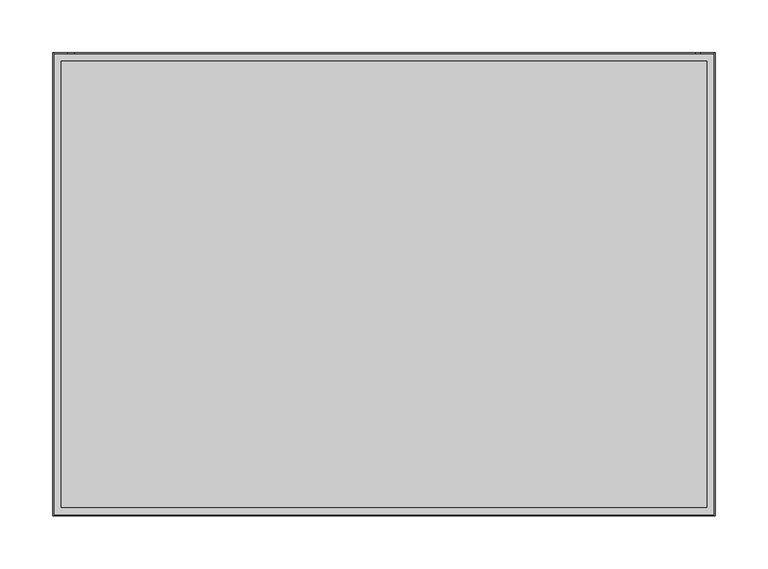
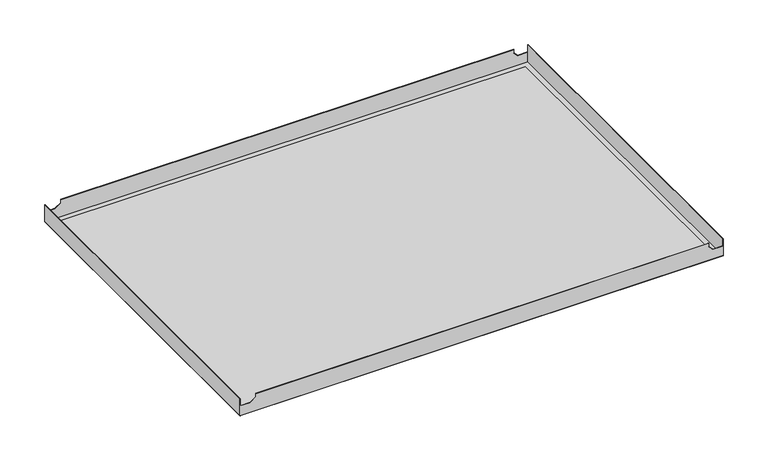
"""IFC4 building model written with IfcOpenShell, lengths in millimetres: proxy geometry, durlum_S1_panel : durlum_S1_panel_wall_width_cut."""

import ifcopenshell
import ifcopenshell.guid

model = None  # the IFC model being written
_history = None  # IfcOwnerHistory: only IFC2X3 demands one
_inside = {}  # id of a spatial element -> (the spatial element, [elements in it])
_under = {}  # id of a project, library or spatial element -> (it, [spatial elements below it])
_declared = {}  # id of a project -> (the project, [libraries it declares])
_typed = {}  # id of a type object -> (the type object, [elements of that type])
_made_of = {}  # id of a material, layer set ... -> (it, [elements and type objects made of it])


def new_model(schema):
    """Start an empty IFC model of exactly this schema.

    Asked for "IFC4X3", IfcOpenShell would pick the latest addendum, in which some entities
    have other attributes; the version numbers below select the first issue.
    IFC2X3 requires an IfcOwnerHistory on every rooted entity: one is made here for all.
    """
    global model, _history
    if schema == "IFC4X3":
        model = ifcopenshell.file(schema_version=(4, 3, 0, 0))
    else:
        model = ifcopenshell.file(schema=schema)
    _inside.clear()
    _under.clear()
    _declared.clear()
    _typed.clear()
    _made_of.clear()
    _history = None
    if model.schema == "IFC2X3":
        org = make("IfcOrganization", Name="unknown")
        user = make(
            "IfcPersonAndOrganization",
            ThePerson=make("IfcPerson", FamilyName="unknown"),
            TheOrganization=org,
        )
        app = make(
            "IfcApplication",
            ApplicationDeveloper=org,
            Version="unknown",
            ApplicationFullName="unknown",
            ApplicationIdentifier="unknown",
        )
        _history = make(
            "IfcOwnerHistory",
            OwningUser=user,
            OwningApplication=app,
            ChangeAction="ADDED",
            CreationDate=0,
        )
    return model


def make(cls, **values):
    """One entity of the class cls with the attributes given. An attribute that is None is left unset."""
    return model.create_entity(
        cls, **{name: value for name, value in values.items() if value is not None}
    )


def rooted(cls, **values):
    """An entity with a GlobalId (a new one), such as an element, a storey or a relation."""
    return make(cls, GlobalId=ifcopenshell.guid.new(), OwnerHistory=_history, **values)


def si_unit(unit_type, name, prefix=None):
    """IfcSIUnit, for example si_unit("LENGTHUNIT", "METRE", prefix="MILLI")."""
    return make("IfcSIUnit", UnitType=unit_type, Prefix=prefix, Name=name)


def assignment(units):
    """IfcUnitAssignment: the units of a project."""
    return None if units is None else make("IfcUnitAssignment", Units=units)


def point(xyz):
    """IfcCartesianPoint."""
    return None if xyz is None else make("IfcCartesianPoint", Coordinates=xyz)


def direction(xyz):
    """IfcDirection."""
    return None if xyz is None else make("IfcDirection", DirectionRatios=xyz)


def frame(location, z_axis=None, x_axis=None):
    """IfcAxis2Placement3D, a coordinate frame: its origin and axes. An axis left out is left unset."""
    return make(
        "IfcAxis2Placement3D",
        Location=point(location),
        Axis=direction(z_axis),
        RefDirection=direction(x_axis),
    )


def origin():
    """The frame at (0, 0, 0) with its axes left unset."""
    return frame((0.0, 0.0, 0.0))


def origin_with_axes():
    """The frame at (0, 0, 0) with the z axis (0, 0, 1) and the x axis (1, 0, 0) written out."""
    return frame((0.0, 0.0, 0.0), z_axis=(0.0, 0.0, 1.0), x_axis=(1.0, 0.0, 0.0))


def place(relative_to, where):
    """IfcLocalPlacement: puts the frame where relative to a parent placement (None: the world)."""
    return make(
        "IfcLocalPlacement", PlacementRelTo=relative_to, RelativePlacement=where
    )


def context(
    kind, dimensions, precision=None, world=None, true_north=None, identifier=None
):
    """IfcGeometricRepresentationContext, for example the 3D "Model" context."""
    return make(
        "IfcGeometricRepresentationContext",
        ContextIdentifier=identifier,
        ContextType=kind,
        CoordinateSpaceDimension=dimensions,
        Precision=precision,
        WorldCoordinateSystem=world,
        TrueNorth=true_north,
    )


def project(units=None, contexts=None):
    """IfcProject with its units and contexts."""
    return rooted(
        "IfcProject",
        Name="project",
        RepresentationContexts=contexts,
        UnitsInContext=assignment(units),
    )


def spatial(cls, under=None, at=None, **own):
    """A site, building, storey or space (cls), placed at a placement, below another one or the project."""
    s = rooted(cls, ObjectPlacement=at, **own)
    if under is not None:
        _under.setdefault(under.id(), (under, []))[1].append(s)
    return s


def polyline(points):
    """IfcPolyline through the points."""
    return make("IfcPolyline", Points=[point(p) for p in points])


def outline(outer, holes=None, kind="AREA"):
    """IfcArbitraryClosedProfileDef: a profile drawn as a closed curve; with holes, ...WithVoids."""
    if holes is None:
        return make("IfcArbitraryClosedProfileDef", ProfileType=kind, OuterCurve=outer)
    return make(
        "IfcArbitraryProfileDefWithVoids",
        ProfileType=kind,
        OuterCurve=outer,
        InnerCurves=holes,
    )


def extrude(swept, where, along, depth):
    """IfcExtrudedAreaSolid: the profile swept, set in the frame where, extruded along a direction by depth."""
    return make(
        "IfcExtrudedAreaSolid",
        SweptArea=swept,
        Position=where,
        ExtrudedDirection=direction(along),
        Depth=depth,
    )


def faces_of(points, faces, orient=None, outer=None):
    """IfcFace entities. A face is a list of loops; a loop is a list of indices into points, from 0.

    orient and outer hold one flag for each loop. By default every Orientation is true, the
    first loop of a face is its IfcFaceOuterBound and the others are IfcFaceBound.
    """
    made = []
    for i, loops in enumerate(faces):
        bounds = []
        for j, loop in enumerate(loops):
            is_outer = j == 0 if outer is None else outer[i][j]
            bounds.append(
                make(
                    "IfcFaceOuterBound" if is_outer else "IfcFaceBound",
                    Bound=make("IfcPolyLoop", Polygon=[points[k] for k in loop]),
                    Orientation=True if orient is None else orient[i][j],
                )
            )
        made.append(make("IfcFace", Bounds=bounds))
    return made


def faceted_brep(points, faces, orient=None, outer=None, voids=None):
    """IfcFacetedBrep: a solid bounded by flat faces; with voids (closed shells), ...WithVoids."""
    shared = [point(p) for p in points]
    hull = make("IfcClosedShell", CfsFaces=faces_of(shared, faces, orient, outer))
    if voids is None:
        return make("IfcFacetedBrep", Outer=hull)
    return make(
        "IfcFacetedBrepWithVoids",
        Outer=hull,
        Voids=[
            make(cls, CfsFaces=faces_of(shared, fs, o, b)) for cls, fs, o, b in voids
        ],
    )


def shape(context_of_items, identifier, shape_type, items):
    """IfcShapeRepresentation: the items that make up one representation, for example the "Body"."""
    return make(
        "IfcShapeRepresentation",
        ContextOfItems=context_of_items,
        RepresentationIdentifier=identifier,
        RepresentationType=shape_type,
        Items=items,
    )


def source(mapping_origin, context_of_items, identifier, shape_type, items):
    """IfcRepresentationMap: a shape defined once, which mapped items show again and again."""
    return make(
        "IfcRepresentationMap",
        MappingOrigin=mapping_origin,
        MappedRepresentation=shape(context_of_items, identifier, shape_type, items),
    )


def transform(
    local_origin,
    x_axis=None,
    y_axis=None,
    z_axis=None,
    scale=None,
    scale2=None,
    scale3=None,
    uniform=True,
):
    """IfcCartesianTransformationOperator3D, or its non-uniform kind. x_axis, y_axis, z_axis: its Axis1, 2, 3."""
    if uniform:
        return make(
            "IfcCartesianTransformationOperator3D",
            Axis1=direction(x_axis),
            Axis2=direction(y_axis),
            LocalOrigin=point(local_origin),
            Scale=scale,
            Axis3=direction(z_axis),
        )
    return make(
        "IfcCartesianTransformationOperator3DnonUniform",
        Axis1=direction(x_axis),
        Axis2=direction(y_axis),
        LocalOrigin=point(local_origin),
        Scale=scale,
        Axis3=direction(z_axis),
        Scale2=scale2,
        Scale3=scale3,
    )


def mapped(mapping_source, mapping_target):
    """IfcMappedItem: shows the shape of a source again, moved by a transform."""
    return make(
        "IfcMappedItem", MappingSource=mapping_source, MappingTarget=mapping_target
    )


def made_of(thing, what):
    """Note that an element or type object is made of a material, layer set ...; save() writes the relation."""
    if what is not None:
        _made_of.setdefault(what.id(), (what, []))[1].append(thing)
    return thing


def element(
    cls,
    number,
    at=None,
    inside=None,
    cuts=None,
    type_object=None,
    material=None,
    context=None,
    identifier="Body",
    shape_type=None,
    held_by="IfcProductDefinitionShape",
    body=None,
    shapes=None,
    **own,
):
    """One element of the class cls, such as IfcWall. Its Tag is "e" and its number.

    at: its placement. inside: the storey or other place that contains it. cuts: it is an
    opening in that element (IfcRelVoidsElement). A single representation is given by context,
    identifier, shape_type and body (its items); several are given by shapes. held_by: the class
    of the entity that holds the representations. save() writes the other relations.
    """
    e = rooted(cls, Tag="e%d" % number, ObjectPlacement=at, **own)
    if body is not None:
        shapes = [shape(context, identifier, shape_type, body)]
    if shapes is not None:
        e.Representation = make(held_by, Representations=shapes)
    if inside is not None:
        _inside.setdefault(inside.id(), (inside, []))[1].append(e)
    if cuts is not None:
        rooted(
            "IfcRelVoidsElement", RelatingBuildingElement=cuts, RelatedOpeningElement=e
        )
    if type_object is not None:
        _typed.setdefault(type_object.id(), (type_object, []))[1].append(e)
    return made_of(e, material)


def aggregate(whole, parts):
    """IfcRelAggregates: a whole, such as a stair, and the parts it consists of."""
    return rooted("IfcRelAggregates", RelatingObject=whole, RelatedObjects=parts)


def save(model, path):
    """Write the relations noted so far, then the file.

    IfcRelAggregates (storeys below a building ...), IfcRelContainedInSpatialStructure (elements
    in a storey), IfcRelDefinesByType, IfcRelAssociatesMaterial and IfcRelDeclares: one each for
    every whole, place, type object, material and project.
    """
    for whole, parts in _under.values():
        aggregate(whole, parts)
    for where, things in _inside.values():
        rooted(
            "IfcRelContainedInSpatialStructure",
            RelatedElements=things,
            RelatingStructure=where,
        )
    for kind, things in _typed.values():
        rooted("IfcRelDefinesByType", RelatedObjects=things, RelatingType=kind)
    for what, things in _made_of.values():
        rooted("IfcRelAssociatesMaterial", RelatedObjects=things, RelatingMaterial=what)
    for by, libraries in _declared.values():
        rooted("IfcRelDeclares", RelatingContext=by, RelatedDefinitions=libraries)
    model.write(path)


def generic_models_26324e2b(model_context):
    return source(origin(), model_context, "Body", "SolidModel", [
        faceted_brep([(-312.5, 218.75, 23.5), (-312.5, -218.75, 23.5), (-311.9, -218.75, 23.5), (-311.9, 218.75, 23.5), (312.5, -218.75, 23.5), (312.5, 218.75, 23.5), (311.9, 218.75, 23.5), (311.9, -218.75, 23.5), (-291.9, 218.75, 23.5), (-291.9, 218.15, 23.5), (293.9, 218.15, 23.5), (293.9, 218.75, 23.5), (-291.9, -218.15, 23.5), (-291.9, -218.75, 23.5), (293.9, -218.75, 23.5), (293.9, -218.15, 23.5), (312.5, 218.75, 0.6), (312.5, -218.75, 0.6), (-312.5, -218.75, 0.6), (-312.5, 218.75, 0.6), (311.9, 218.15, 0.6), (-311.9, 218.15, 0.6), (-311.9, -218.15, 0.6), (311.9, -218.15, 0.6), (-311.9, 218.75, 13.6669893), (-299.1658218, 218.75, 13.6669893), (-291.9, 218.75, 18.9328111), (293.9, 218.75, 18.9469988), (299.1800094, 218.75, 13.6669893), (311.9, 218.75, 13.6669893), (311.9, -218.75, 13.6669893), (299.1800094, -218.75, 13.6669893), (293.9, -218.75, 18.9469988), (-291.9, -218.75, 18.9328111), (-299.1658218, -218.75, 13.6669893), (-311.9, -218.75, 13.6669893), (311.9, 218.15, 13.6669893), (311.9, -218.15, 13.6669893), (-311.9, -218.15, 13.6669893), (-299.1658218, -218.15, 13.6669893), (-291.9, -218.15, 18.9328111), (293.9, -218.15, 18.9469988), (299.1800094, -218.15, 13.6669893), (-311.9, 218.15, 13.6669893), (299.1800094, 218.15, 13.6669893), (293.9, 218.15, 18.9469988), (-291.9, 218.15, 18.9328111), (-299.1658218, 218.15, 13.6669893)], [[[0, 1, 2, 3]], [[4, 5, 6, 7]], [[8, 9, 10, 11]], [[12, 13, 14, 15]], [[16, 17, 18, 19], [20, 21, 22, 23]], [[16, 19, 0, 3, 24, 25, 26, 8, 11, 27, 28, 29, 6, 5]], [[1, 0, 19, 18]], [[18, 17, 4, 7, 30, 31, 32, 14, 13, 33, 34, 35, 2, 1]], [[5, 4, 17, 16]], [[6, 29, 36, 20, 23, 37, 30, 7]], [[23, 22, 38, 39, 40, 12, 15, 41, 42, 37]], [[22, 21, 43, 24, 3, 2, 35, 38]], [[21, 20, 36, 44, 45, 10, 9, 46, 47, 43]], [[38, 35, 34, 39]], [[24, 43, 47, 25]], [[39, 34, 33, 40]], [[25, 47, 46, 26]], [[40, 33, 13, 12]], [[26, 46, 9, 8]], [[36, 29, 28, 44]], [[30, 37, 42, 31]], [[44, 28, 27, 45]], [[31, 42, 41, 32]], [[32, 41, 15, 14]], [[45, 27, 11, 10]]]),
        extrude(outline(polyline([(304.5, 210.75), (304.5, -210.75), (-304.5, -210.75), (-304.5, 210.75), (304.5, 210.75)])), frame((0.0, 0.0, 0.6), z_axis=(0.0, 0.0, 1.0), x_axis=(1.0, 0.0, 0.0)), (0.0, 0.0, 1.0), 0.6),
        extrude(outline(polyline([(312.5, 218.75), (312.5, -218.75), (-312.5, -218.75), (-312.5, 218.75), (312.5, 218.75)]), holes=[polyline([(304.5, 210.75), (-304.5, 210.75), (-304.5, -210.75), (304.5, -210.75), (304.5, 210.75)])]), origin_with_axes(), (0.0, 0.0, 1.0), 0.6),
        extrude(outline(polyline([(304.5, 210.75), (304.5, -210.75), (-304.5, -210.75), (-304.5, 210.75), (304.5, 210.75)])), origin_with_axes(), (0.0, 0.0, 1.0), 0.6),
    ])


if __name__ == "__main__":
    model = new_model("IFC4")
    model_context = context("Model", 3, world=origin())
    ifc_project = project(units=[si_unit("LENGTHUNIT", "METRE", prefix="MILLI")], contexts=[model_context])
    site = spatial("IfcSite", under=ifc_project)
    building = spatial("IfcBuilding", under=site)
    placement = place(None, origin())
    generic_models_shape = generic_models_26324e2b(model_context)
    element("IfcBuildingElementProxy", 1, Name="durlum_S1_panel : durlum_S1_panel_wall_width_cut", ObjectType="durlum_S1_panel : durlum_S1_panel_wall_width_cut", at=placement, inside=building, context=model_context, shape_type="MappedRepresentation", body=[
        mapped(generic_models_shape, transform((0.0, 0.0, 0.0), x_axis=(1.0, 0.0, 0.0), y_axis=(0.0, 1.0, 0.0), z_axis=(0.0, 0.0, 1.0))),
    ])
    save(model, "model.ifc")
